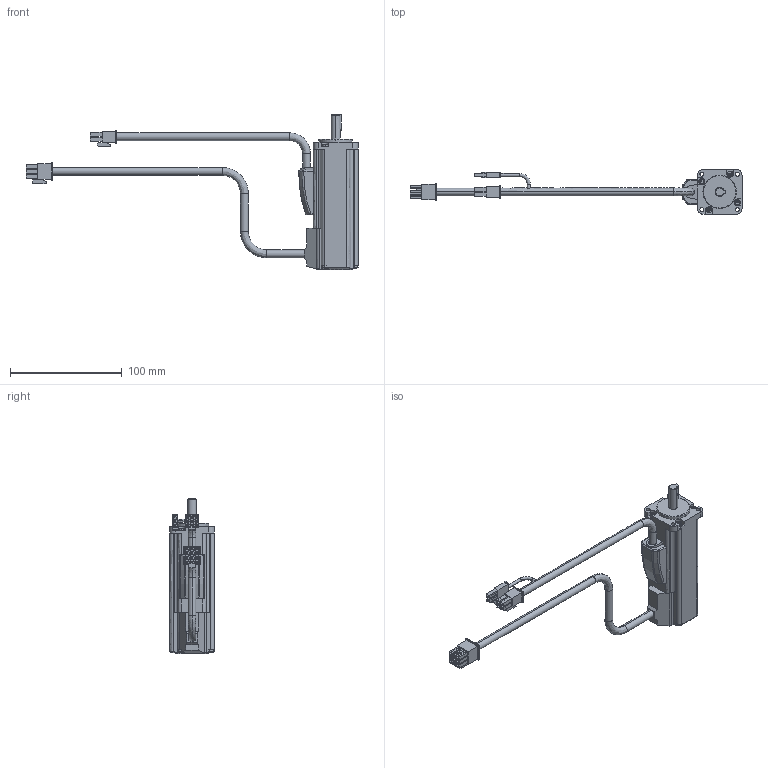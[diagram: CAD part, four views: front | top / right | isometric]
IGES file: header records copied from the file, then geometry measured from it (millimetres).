
Start section:  PTC IGES file: RSMZ-A5BA3xT.igs
Global section: file name: RSMZ-A5BA3xT.igs; native system: Pro/ENGINEER by Parametric Technology Corporation; preprocessor: 2004440; author: Administrator; organization: Unknown; date: 070904.190941; units: millimetre
Bounding box: 297.7 x 40 x 139 mm (x, y, z)
Volume: 197628 mm3; surface area: 40145.8 mm2
Topology: 1 solids, 1 shells, 502 faces, 1266 edges, 821 vertices
Faces by surface type: bspline 362, revolution 140
